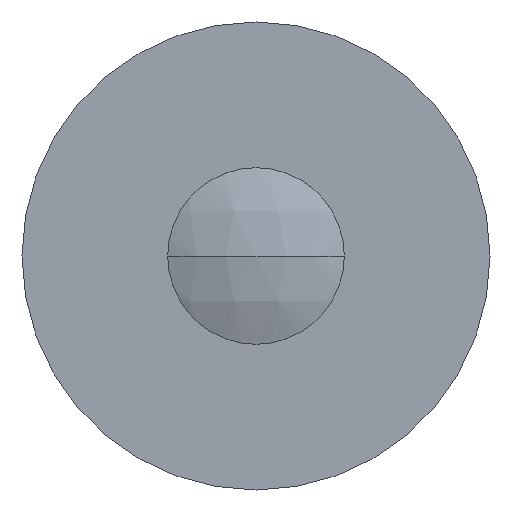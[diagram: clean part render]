
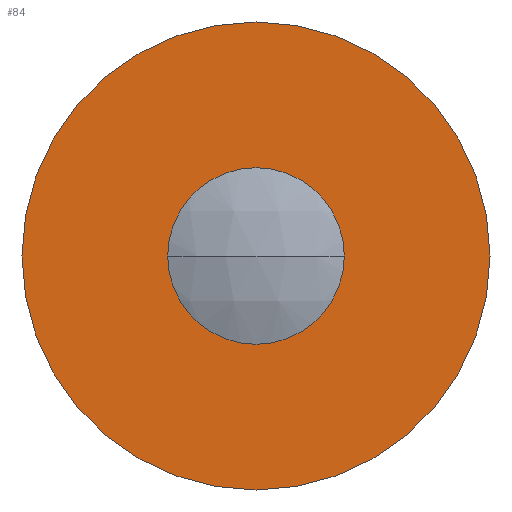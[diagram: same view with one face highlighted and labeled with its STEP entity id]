
A CAD part, front view. The second image highlights one B-rep face of the part: STEP entity #84.
In plain terms, the highlighted planar face has unit normal (0, -1, 0).
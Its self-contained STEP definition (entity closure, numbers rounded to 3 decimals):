
#84=ADVANCED_FACE('',(#137,#138),#139,.F.);
#137=FACE_OUTER_BOUND('',#228,.T.);
#138=FACE_BOUND('',#229,.T.);
#139=PLANE('',#230);
#228=EDGE_LOOP('',(#367,#368));
#229=EDGE_LOOP('',(#369,#370));
#230=AXIS2_PLACEMENT_3D('',#371,#372,#373);
#367=ORIENTED_EDGE('',*,*,#637,.T.);
#368=ORIENTED_EDGE('',*,*,#630,.T.);
#369=ORIENTED_EDGE('',*,*,#638,.F.);
#370=ORIENTED_EDGE('',*,*,#639,.F.);
#371=CARTESIAN_POINT('',(-12.5,-3.5,0.0));
#372=DIRECTION('',(-0.0,1.0,0.0));
#373=DIRECTION('',(1.0,0.0,0.0));
#630=EDGE_CURVE('',#730,#732,#734,.T.);
#637=EDGE_CURVE('',#732,#730,#747,.T.);
#638=EDGE_CURVE('',#748,#749,#750,.T.);
#639=EDGE_CURVE('',#749,#748,#751,.T.);
#730=VERTEX_POINT('',#891);
#732=VERTEX_POINT('',#894);
#734=CIRCLE('',#897,13.25);
#747=CIRCLE('',#916,13.25);
#748=VERTEX_POINT('',#917);
#749=VERTEX_POINT('',#918);
#750=CIRCLE('',#919,5.0);
#751=CIRCLE('',#920,5.0);
#891=CARTESIAN_POINT('',(0.75,-3.5,13.25));
#894=CARTESIAN_POINT('',(0.75,-3.5,-13.25));
#897=AXIS2_PLACEMENT_3D('',#1118,#1119,#1120);
#916=AXIS2_PLACEMENT_3D('',#1127,#1128,#1129);
#917=CARTESIAN_POINT('',(-4.25,-3.5,0.0));
#918=CARTESIAN_POINT('',(5.75,-3.5,0.));
#919=AXIS2_PLACEMENT_3D('',#1130,#1131,#1132);
#920=AXIS2_PLACEMENT_3D('',#1133,#1134,#1135);
#1118=CARTESIAN_POINT('',(0.75,-3.5,0.0));
#1119=DIRECTION('',(0.0,-1.0,0.0));
#1120=DIRECTION('',(0.0,0.0,-1.0));
#1127=CARTESIAN_POINT('',(0.75,-3.5,0.0));
#1128=DIRECTION('',(0.0,-1.0,0.0));
#1129=DIRECTION('',(0.0,0.0,-1.0));
#1130=CARTESIAN_POINT('',(0.75,-3.5,0.0));
#1131=DIRECTION('',(0.0,-1.0,0.0));
#1132=DIRECTION('',(0.0,0.0,-1.0));
#1133=CARTESIAN_POINT('',(0.75,-3.5,0.0));
#1134=DIRECTION('',(0.0,-1.0,0.0));
#1135=DIRECTION('',(0.0,0.0,-1.0));
